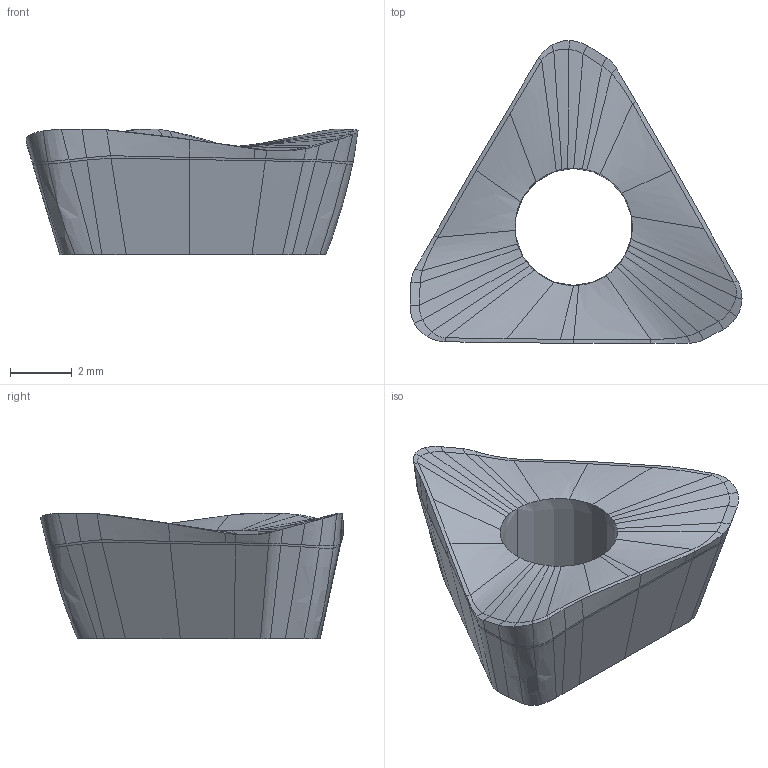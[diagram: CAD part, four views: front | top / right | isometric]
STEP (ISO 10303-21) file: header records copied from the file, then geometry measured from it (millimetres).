
FILE_DESCRIPTION(('CATIA V5 STEP','CAx-IF Rec.Pracs.--- Model Styling and Organization---1.2---2011-12-15'),'2;1');
FILE_NAME('C:\eit\appserv\eitdev\tmp\eit\transmagicconvert\13145357\HM390 TPKT 100312PDR D.stp','2017-02-13T12:54:03+00:00',('none'),('none'),'CATIA Version 5 Release 21 SP 5 (IN-10)','CATIA V5 STEP AP214','none');
FILE_SCHEMA(('AUTOMOTIVE_DESIGN { 1 0 10303 214 1 1 1 1 }'));
Length unit declared in the file: millimetre
Products named in the file (1): HM390 TPKT 100312 PDR
Bounding box: 10.73 x 9.79 x 4.06 mm (x, y, z)
Volume: 163.3 mm3; surface area: 246.6 mm2
Topology: 1 solids, 1 shells, 126 faces, 357 edges, 233 vertices
Faces by surface type: bspline 123, extrusion 2, plane 1
Entity records: 10629 total; most frequent: CARTESIAN_POINT 8476, ORIENTED_EDGE 644, B_SPLINE_CURVE_WITH_KNOTS 357, EDGE_CURVE 322, VERTEX_POINT 197, EDGE_LOOP 127, ADVANCED_FACE 126, FACE_OUTER_BOUND 126
